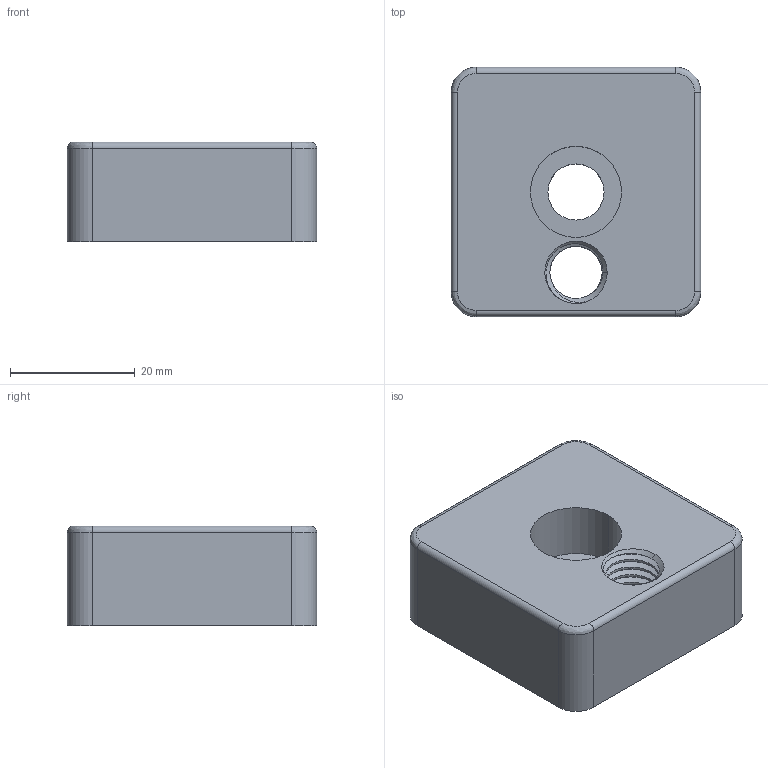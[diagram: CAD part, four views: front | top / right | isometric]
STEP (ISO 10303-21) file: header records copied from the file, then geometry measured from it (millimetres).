
FILE_DESCRIPTION (( 'STEP AP203' ), '1' );
FILE_NAME ('503221_Transport- u. Fußplatte 8 ZN 40x40 M10.step', '2022-08-02T06:32:48', ( '' ), ( '' ), 'SwSTEP 2.0', 'SolidWorks 2021', '' );
FILE_SCHEMA (( 'CONFIG_CONTROL_DESIGN' ));
Length unit declared in the file: millimetre
Products named in the file (1): 503221_Transport- u. Fußplatte 8 ZN 40x40 M10
Bounding box: 40 x 40 x 16 mm (x, y, z)
Volume: 22344.7 mm3; surface area: 6627.6 mm2
Topology: 1 solids, 1 shells, 53 faces, 137 edges, 87 vertices
Faces by surface type: cylinder 33, plane 7, bspline 7, cone 6
Entity records: 5816 total; most frequent: CARTESIAN_POINT 4576, ORIENTED_EDGE 274, DIRECTION 208, EDGE_CURVE 137, VERTEX_POINT 87, AXIS2_PLACEMENT_3D 80, EDGE_LOOP 58, FACE_OUTER_BOUND 53
